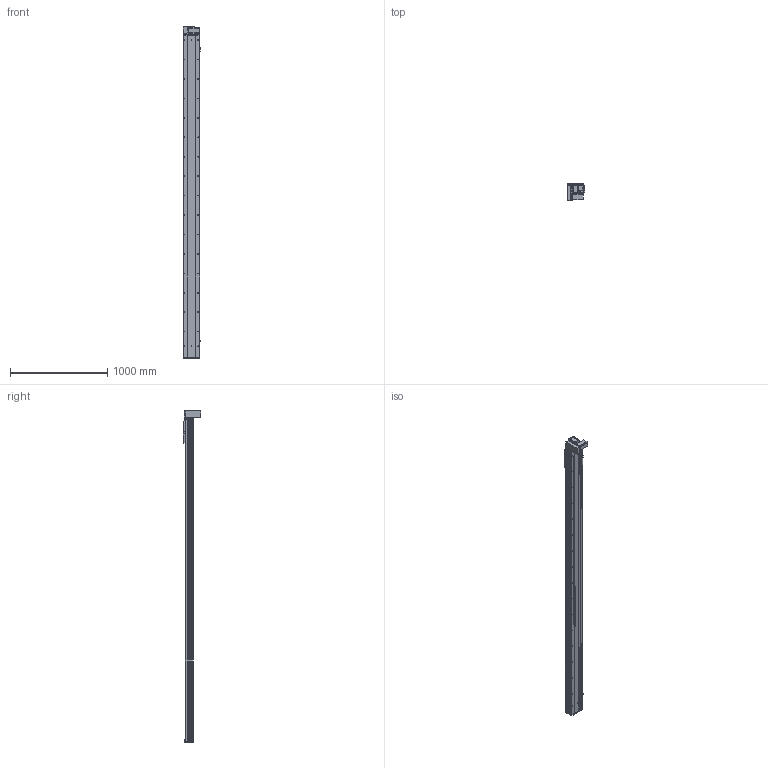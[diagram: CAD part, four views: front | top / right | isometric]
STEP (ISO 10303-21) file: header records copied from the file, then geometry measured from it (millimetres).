
FILE_DESCRIPTION (( 'STEP AP203' ), '1' );
FILE_NAME ('Y170CB-D105-S3000-BM-P400W.STEP', '2020-02-20T07:54:24', ( '微软用户' ), ( '微软中国' ), 'SwSTEP 2.0', 'SolidWorks 2017', '' );
FILE_SCHEMA (( 'CONFIG_CONTROL_DESIGN' ));
Length unit declared in the file: millimetre
Products named in the file (18): 00B-俋欶BM--163; 70CB--耜裔; 0B-萇儂楊擘啣; 70B喘謫眊----; 70C-雄赽釱-奻-; san松下电机400不带刹车----; Y170CB-D105-S3000-BM-P400W; 0C--雄赽釱俋欶-170; 70CB-掛极-; 70CB-詩湍--; --70CB --喘謫眊楊擘啣-; Y100-135俋离換覜ん--; 70CB-耜裔啣-; Y170CB-陔俋离換覜結え---; Y1埴倛裔; 17B-耜蚾蟀諉啣----; 70C--詩湍揤踡え-; B-源倛裔啣
Assembly tree (21 placements, depth 2):
  Y170CB-D105-S3000-BM-P400W
    B-源倛裔啣
    0B-萇儂楊擘啣
    san松下电机400不带刹车----
    70CB-掛极-
    --70CB --喘謫眊楊擘啣-
    70CB-耜裔啣-  x2
    70C--詩湍揤踡え-  x2
    70CB--耜裔
    70C-雄赽釱-奻-
    0C--雄赽釱俋欶-170
    70CB-詩湍--
    Y100-135俋离換覜ん--  x3
    Y170CB-陔俋离換覜結え---
    Y1埴倛裔
    17B-耜蚾蟀諉啣----
    00B-俋欶BM--163
    70B喘謫眊----
Bounding box: 183.5 x 184 x 3416 mm (x, y, z)
Volume: 14414244.1 mm3; surface area: 5211014.4 mm2
Topology: 21 solids, 21 shells, 1087 faces, 2933 edges, 1946 vertices
Faces by surface type: cylinder 601, plane 462, cone 24
Entity records: 34956 total; most frequent: CARTESIAN_POINT 6456, DIRECTION 5690, ORIENTED_EDGE 5348, EDGE_CURVE 2674, AXIS2_PLACEMENT_3D 2108, VERTEX_POINT 1776, LINE 1474, VECTOR 1474
